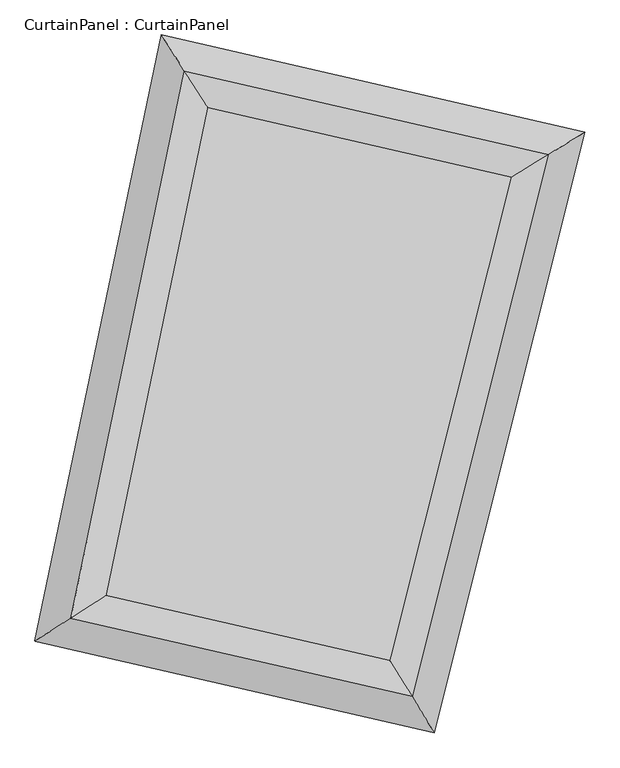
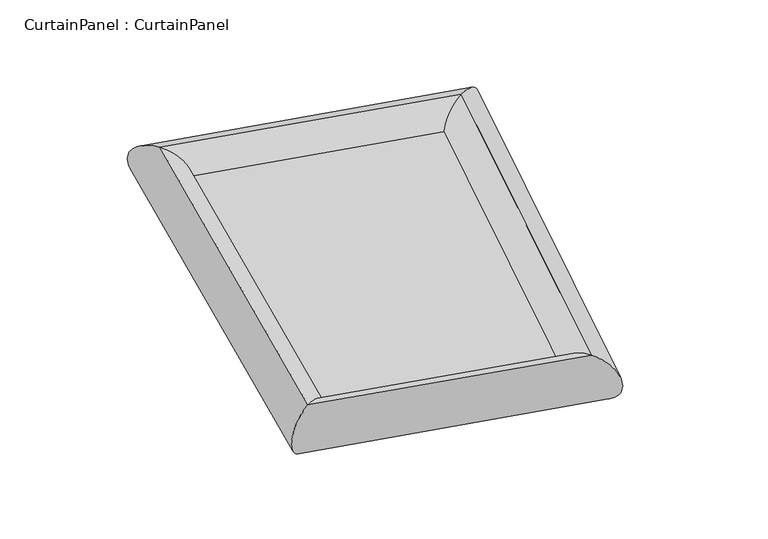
"""IFC4 building model written with IfcOpenShell, lengths in millimetres: plate geometry, CurtainPanel : CurtainPanel."""

from ifc_helpers import new_model, si_unit, frame, origin, origin_with_axes, place, context, project, spatial, polyline, ellipse_curve, outline, extrude, source, transform, mapped, element, save
from ifc_brep_helpers import cylinder_surface, advanced_brep


def curtainpanel_curtainpanel_0605ef13(model_context):
    return source(origin(), model_context, "Body", "SolidModel", [
        extrude(outline(polyline([(2879.1178146, 2879.1178146), (3705.8247799, 6851.9965682), (6345.4179195, 6246.4051917), (5357.6394861, 2310.4804256), (2879.1178146, 2879.1178146)])), origin_with_axes(), (0.0, 0.0, 1.0), 20.0),
        advanced_brep(
        [(2879.1178146, 2879.1178146, -220.0), (2879.1178146, 2879.1178146, 220.0), (5357.6394861, 2310.4804256, 220.0), (5357.6394861, 2310.4804256, -220.0), (6345.4179195, 6246.4051917, 220.0), (6345.4179195, 6246.4051917, -220.0), (3705.8247799, 6851.9965682, 220.0), (3705.8247799, 6851.9965682, -220.0)],
        [
            (0, 1, ellipse_curve(frame((2879.1178146, 2879.1178146, 0.0), z_axis=(0.5396797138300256, -0.8418704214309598, 0.0), x_axis=(-0.8418704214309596, -0.5396797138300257, 0.0)), 308.006986, 220.0)),
            (1, 2),
            (2, 3, ellipse_curve(frame((5357.6394861, 2310.4804256, 0.0), z_axis=(-0.8526847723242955, -0.5224257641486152, 0.0), x_axis=(-0.5224257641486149, 0.8526847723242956, 0.0)), 308.006986, 220.0)),
            (3, 0),
            (1, 0, ellipse_curve(frame((2879.1178146, 2879.1178146, 0.0), z_axis=(0.5396797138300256, -0.8418704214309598, 0.0), x_axis=(-0.8418704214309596, -0.5396797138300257, 0.0)), 308.006986, 220.0)),
            (3, 2, ellipse_curve(frame((5357.6394861, 2310.4804256, 0.0), z_axis=(-0.8526847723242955, -0.5224257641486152, 0.0), x_axis=(-0.5224257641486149, 0.8526847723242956, 0.0)), 308.006986, 220.0)),
            (2, 4),
            (4, 5, ellipse_curve(frame((6345.4179195, 6246.4051917, 0.0), z_axis=(0.5224257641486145, -0.8526847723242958, 0.0), x_axis=(-0.852684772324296, -0.5224257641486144, 0.0)), 314.3437571, 220.0)),
            (5, 3),
            (5, 4, ellipse_curve(frame((6345.4179195, 6246.4051917, 0.0), z_axis=(0.5224257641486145, -0.8526847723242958, 0.0), x_axis=(-0.852684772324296, -0.5224257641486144, 0.0)), 314.3437571, 220.0)),
            (4, 6),
            (6, 7, ellipse_curve(frame((3705.8247799, 6851.9965682, 0.0), z_axis=(0.8418704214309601, 0.5396797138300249, 0.0), x_axis=(0.539679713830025, -0.84187042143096, 0.0)), 314.3437571, 220.0)),
            (7, 5),
            (7, 6, ellipse_curve(frame((3705.8247799, 6851.9965682, 0.0), z_axis=(0.8418704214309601, 0.5396797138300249, 0.0), x_axis=(0.539679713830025, -0.84187042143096, 0.0)), 314.3437571, 220.0)),
            (6, 1),
            (0, 7),
        ],
        [
            cylinder_surface(frame((2879.1178146, 2879.1178146, 0.0), z_axis=(-0.9746772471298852, 0.22361633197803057, 0.0), x_axis=(0.22361633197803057, 0.9746772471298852, 0.0)), 220.0),
            cylinder_surface(frame((5357.6394861, 2310.4804256, 0.0), z_axis=(-0.24341622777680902, -0.9699219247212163, 0.0), x_axis=(-0.9699219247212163, 0.24341622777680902, 0.0)), 220.0),
            cylinder_surface(frame((6345.4179195, 6246.4051917, 0.0), z_axis=(0.9746772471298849, -0.22361633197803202, 0.0), x_axis=(-0.22361633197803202, -0.9746772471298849, 0.0)), 220.0),
            cylinder_surface(frame((3705.8247799, 6851.9965682, 0.0), z_axis=(0.2037237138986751, 0.9790284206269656, 0.0), x_axis=(0.9790284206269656, -0.2037237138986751, 0.0)), 220.0),
        ],
        [
            (0, [[1, 2, 3, 4]]),
            (0, [[5, -4, 6, -2]]),
            (1, [[-3, 7, 8, 9]]),
            (1, [[-6, -9, 10, -7]]),
            (2, [[-8, 11, 12, 13]]),
            (2, [[-10, -13, 14, -11]]),
            (3, [[-12, 15, -1, 16]]),
            (3, [[-14, -16, -5, -15]]),
        ],
    ),
    ])


if __name__ == "__main__":
    model = new_model("IFC4")
    model_context = context("Model", 3, world=origin())
    ifc_project = project(units=[si_unit("LENGTHUNIT", "METRE", prefix="MILLI")], contexts=[model_context])
    site = spatial("IfcSite", under=ifc_project)
    building = spatial("IfcBuilding", under=site)
    placement = place(None, origin())
    curtainpanel_curtainpanel_shape = curtainpanel_curtainpanel_0605ef13(model_context)
    element("IfcPlate", 1, ObjectType="CurtainPanel : CurtainPanel", at=placement, inside=building, context=model_context, shape_type="MappedRepresentation", body=[
        mapped(curtainpanel_curtainpanel_shape, transform((0.0, 0.0, 0.0), x_axis=(1.0, 0.0, 0.0), y_axis=(0.0, 1.0, 0.0), z_axis=(0.0, 0.0, 1.0))),
    ])
    save(model, "model.ifc")
